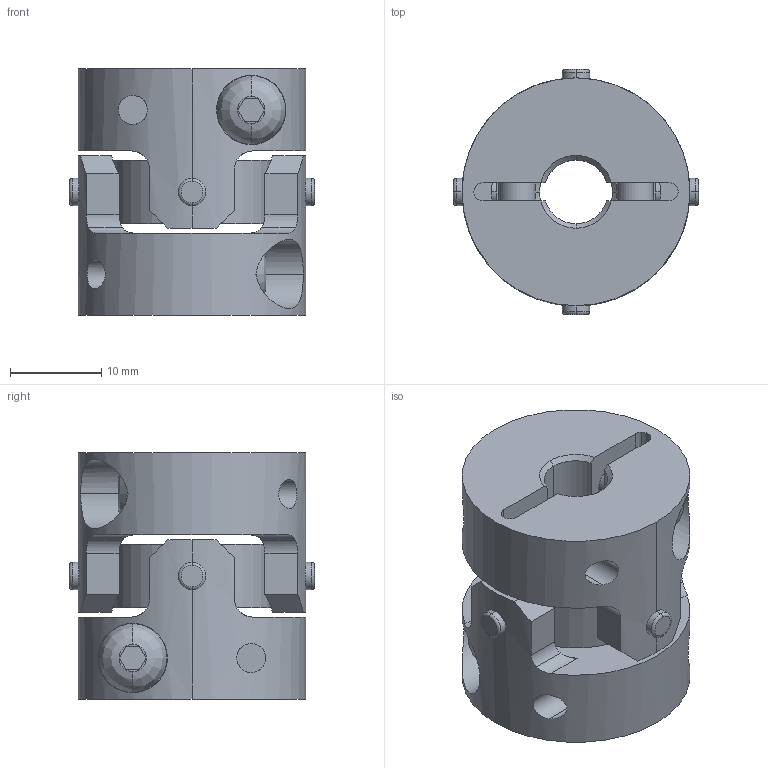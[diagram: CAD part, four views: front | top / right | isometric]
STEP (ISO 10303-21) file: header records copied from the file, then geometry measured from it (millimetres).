
FILE_DESCRIPTION((''),'2;1');
FILE_NAME('UA-25C-7×8.stp','2013-05-16T09:20:59',(''),(''),'AutoCAD STEP 2000i','AutoCAD 2000i',', , ');
FILE_SCHEMA(('CONFIG_CONTROL_DESIGN'));
Length unit declared in the file: millimetre
Products named in the file (6): UA-25C-5×5; 忣兜1; UA-2502-D05-1; BTN-M4; UA-2502-D05; UA25-SEN
Assembly tree (6 placements, depth 3):
  UA-25C-5×5
    忣兜1
    UA-2502-D05-1
      BTN-M4
    UA-2502-D05
      BTN-M4
    UA25-SEN
Bounding box: 26.89 x 26.89 x 27 mm (x, y, z)
Volume: 9131.6 mm3; surface area: 6468 mm2
Topology: 1 solids, 1 shells, 206 faces, 554 edges, 364 vertices
Faces by surface type: cylinder 96, plane 78, cone 16, bspline 8, torus 8
Entity records: 8291 total; most frequent: CARTESIAN_POINT 2975, ORIENTED_EDGE 1108, DIRECTION 1064, EDGE_CURVE 554, AXIS2_PLACEMENT_3D 409, VERTEX_POINT 364, VECTOR 246, LINE 246
